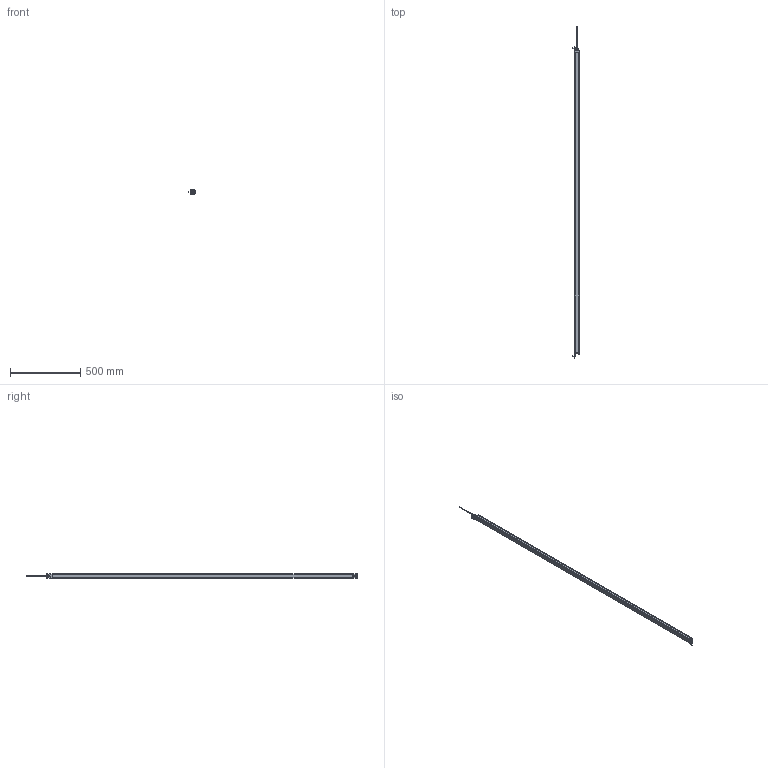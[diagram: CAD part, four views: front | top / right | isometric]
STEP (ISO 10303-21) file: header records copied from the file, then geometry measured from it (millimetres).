
FILE_DESCRIPTION(/* description */ (''),/* implementation_level */ '2;1');
FILE_NAME(/* name */ 'QE72-30-2130_stp_.stp',/* time_stamp */ '2023-07-18T21:18:02+08:00',/* author */ (''),/* organization */ (''),/* preprocessor_version */ 'ST-DEVELOPER v14',/* originating_system */ 'SIEMENS PLM Software NX 8.0',/* authorisation */ '');
FILE_SCHEMA (('CONFIG_CONTROL_DESIGN'));
Products named in the file (1): QE70-30-2070_stp__stp_stp
Bounding box: 44.2 x 2368.8 x 30 mm (x, y, z)
Volume: 1746427.6 mm3; surface area: 362599.5 mm2
Topology: 25 solids, 25 shells, 619 faces, 1571 edges, 1037 vertices
Faces by surface type: plane 335, cylinder 196, bspline 57, cone 22, sphere 5, torus 4
Full cylindrical faces by diameter (mm): 0.7 x2, 1 x5, 2 x5, 2.2 x8, 3.6 x8, 4 x4, 5.5 x12, 6 x2, 7 x2, 8 x1, 9.04 x1, 9.1 x1, 10 x3, 10.8 x1, 11 x2, 11.85 x1, 11.9 x1, 14.5 x1, 15 x2, 15.2 x2
Entity records: 41701 total; most frequent: CARTESIAN_POINT 27535, ORIENTED_EDGE 2832, DIRECTION 2774, EDGE_CURVE 1416, AXIS2_PLACEMENT_3D 1007, VERTEX_POINT 983, EDGE_LOOP 813, LINE 760
